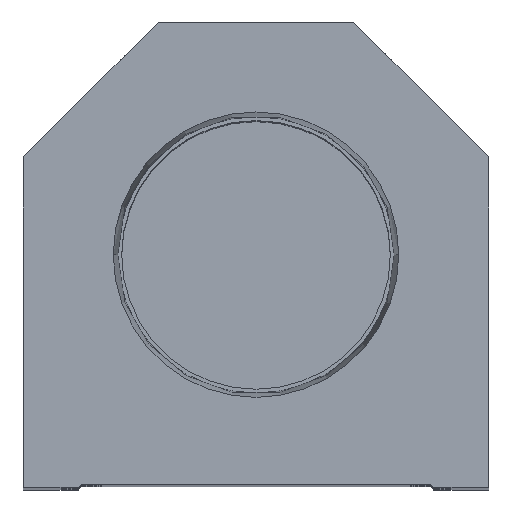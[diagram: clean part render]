
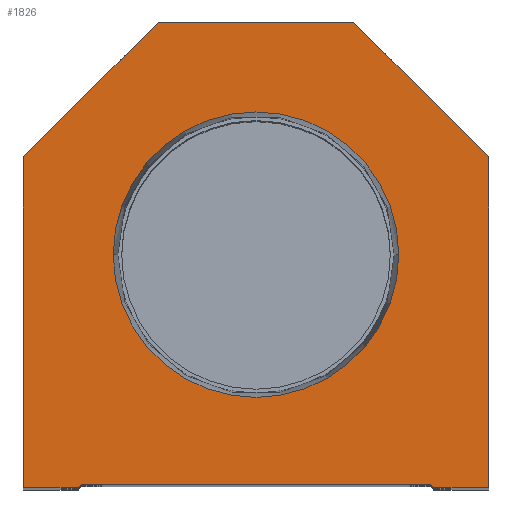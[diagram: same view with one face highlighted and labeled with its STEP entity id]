
A CAD part, top view. The second image highlights one B-rep face of the part: STEP entity #1826.
In plain terms, the highlighted planar face has unit normal (0, 0, 1).
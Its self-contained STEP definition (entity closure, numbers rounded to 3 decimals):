
#214 = EDGE_CURVE ( 'NONE', #13820, #8233, #1455, .T. ) ;
#485 = ORIENTED_EDGE ( 'NONE', *, *, #16792, .T. ) ;
#726 = LINE ( 'NONE', #4638, #4247 ) ;
#743 = CARTESIAN_POINT ( 'NONE',  ( -23.374, 38.1, 0. ) ) ;
#916 = VERTEX_POINT ( 'NONE', #8807 ) ;
#1455 = LINE ( 'NONE', #19187, #17532 ) ;
#1826 = ADVANCED_FACE ( 'NONE', ( #20359, #4279 ), #20237, .T. ) ;
#3287 = CARTESIAN_POINT ( 'NONE',  ( 38.1, 54.1, 0. ) ) ;
#3721 = EDGE_CURVE ( 'NONE', #5514, #17840, #4993, .T. ) ;
#3907 = CARTESIAN_POINT ( 'NONE',  ( 0., 38.1, 0. ) ) ;
#4038 = VERTEX_POINT ( 'NONE', #4616 ) ;
#4139 = DIRECTION ( 'NONE',  ( -1., 0., 0. ) ) ;
#4156 = ORIENTED_EDGE ( 'NONE', *, *, #6049, .T. ) ;
#4158 = CARTESIAN_POINT ( 'NONE',  ( 0., 0., 0. ) ) ;
#4222 = LINE ( 'NONE', #18510, #7444 ) ;
#4247 = VECTOR ( 'NONE', #16968, 1000. ) ;
#4279 = FACE_OUTER_BOUND ( 'NONE', #23005, .T. ) ;
#4537 = EDGE_CURVE ( 'NONE', #916, #13169, #4222, .T. ) ;
#4616 = CARTESIAN_POINT ( 'NONE',  ( 16., 76.2, 0. ) ) ;
#4638 = CARTESIAN_POINT ( 'NONE',  ( -14.55, 14.55, 0. ) ) ;
#4641 = VECTOR ( 'NONE', #19995, 1000. ) ;
#4993 = LINE ( 'NONE', #13715, #8162 ) ;
#5039 = CIRCLE ( 'NONE', #15540, 23.374 ) ;
#5082 = CARTESIAN_POINT ( 'NONE',  ( -38.1, 0., 0. ) ) ;
#5417 = VECTOR ( 'NONE', #16198, 1000. ) ;
#5514 = VERTEX_POINT ( 'NONE', #9874 ) ;
#5631 = DIRECTION ( 'NONE',  ( 1., 0., 0. ) ) ;
#5980 = LINE ( 'NONE', #9644, #6438 ) ;
#6049 = EDGE_CURVE ( 'NONE', #8233, #19801, #11911, .T. ) ;
#6438 = VECTOR ( 'NONE', #5631, 1000. ) ;
#6572 = ORIENTED_EDGE ( 'NONE', *, *, #7681, .T. ) ;
#6749 = DIRECTION ( 'NONE',  ( -0.707, -0.707, 0. ) ) ;
#7444 = VECTOR ( 'NONE', #9041, 1000. ) ;
#7562 = DIRECTION ( 'NONE',  ( 1., 0., 0. ) ) ;
#7681 = EDGE_CURVE ( 'NONE', #13179, #5514, #5980, .T. ) ;
#7957 = DIRECTION ( 'NONE',  ( 0.707, -0.707, 0. ) ) ;
#8162 = VECTOR ( 'NONE', #15467, 1000. ) ;
#8233 = VERTEX_POINT ( 'NONE', #16387 ) ;
#8807 = CARTESIAN_POINT ( 'NONE',  ( -28.6, 0.5, 0. ) ) ;
#8914 = EDGE_CURVE ( 'NONE', #13277, #916, #726, .T. ) ;
#9041 = DIRECTION ( 'NONE',  ( 1., 0., 0. ) ) ;
#9327 = ORIENTED_EDGE ( 'NONE', *, *, #10738, .F. ) ;
#9539 = EDGE_CURVE ( 'NONE', #19801, #13277, #14389, .T. ) ;
#9644 = CARTESIAN_POINT ( 'NONE',  ( 28.6, 0., 0. ) ) ;
#9874 = CARTESIAN_POINT ( 'NONE',  ( 38.1, 0., 0. ) ) ;
#10094 = CARTESIAN_POINT ( 'NONE',  ( 29.1, 0., 0. ) ) ;
#10709 = EDGE_CURVE ( 'NONE', #4038, #13820, #18553, .T. ) ;
#10738 = EDGE_CURVE ( 'NONE', #17550, #16775, #5039, .T. ) ;
#11106 = DIRECTION ( 'NONE',  ( 0., 0., 1. ) ) ;
#11223 = EDGE_CURVE ( 'NONE', #17840, #4038, #12586, .T. ) ;
#11235 = CARTESIAN_POINT ( 'NONE',  ( -29.1, 0., 0. ) ) ;
#11338 = DIRECTION ( 'NONE',  ( 1., 0., 0. ) ) ;
#11431 = AXIS2_PLACEMENT_3D ( 'NONE', #15443, #20827, #11684 ) ;
#11461 = DIRECTION ( 'NONE',  ( 0., 0., 1. ) ) ;
#11563 = CARTESIAN_POINT ( 'NONE',  ( 16., 76.2, 0. ) ) ;
#11606 = ORIENTED_EDGE ( 'NONE', *, *, #8914, .T. ) ;
#11684 = DIRECTION ( 'NONE',  ( 1., 0., 0. ) ) ;
#11763 = ORIENTED_EDGE ( 'NONE', *, *, #10709, .T. ) ;
#11911 = LINE ( 'NONE', #5082, #21760 ) ;
#12203 = CARTESIAN_POINT ( 'NONE',  ( 23.374, 38.1, 0. ) ) ;
#12586 = LINE ( 'NONE', #3287, #5417 ) ;
#13157 = CARTESIAN_POINT ( 'NONE',  ( -16., 76.2, 0. ) ) ;
#13169 = VERTEX_POINT ( 'NONE', #20871 ) ;
#13179 = VERTEX_POINT ( 'NONE', #10094 ) ;
#13259 = LINE ( 'NONE', #22879, #17093 ) ;
#13277 = VERTEX_POINT ( 'NONE', #11235 ) ;
#13715 = CARTESIAN_POINT ( 'NONE',  ( 38.1, 0., 0. ) ) ;
#13820 = VERTEX_POINT ( 'NONE', #13157 ) ;
#13883 = CARTESIAN_POINT ( 'NONE',  ( 38.1, 54.1, 0. ) ) ;
#14144 = DIRECTION ( 'NONE',  ( 0., -1., 0. ) ) ;
#14205 = EDGE_LOOP ( 'NONE', ( #9327, #20943 ) ) ;
#14389 = LINE ( 'NONE', #15044, #4641 ) ;
#15044 = CARTESIAN_POINT ( 'NONE',  ( -28.6, 0., 0. ) ) ;
#15443 = CARTESIAN_POINT ( 'NONE',  ( 0., 38.1, 0. ) ) ;
#15467 = DIRECTION ( 'NONE',  ( 0., 1., 0. ) ) ;
#15540 = AXIS2_PLACEMENT_3D ( 'NONE', #3907, #11106, #7562 ) ;
#15679 = ORIENTED_EDGE ( 'NONE', *, *, #3721, .T. ) ;
#16042 = ORIENTED_EDGE ( 'NONE', *, *, #9539, .T. ) ;
#16134 = CARTESIAN_POINT ( 'NONE',  ( -38.1, 0., 0. ) ) ;
#16198 = DIRECTION ( 'NONE',  ( -0.707, 0.707, 0. ) ) ;
#16387 = CARTESIAN_POINT ( 'NONE',  ( -38.1, 54.1, 0. ) ) ;
#16775 = VERTEX_POINT ( 'NONE', #743 ) ;
#16792 = EDGE_CURVE ( 'NONE', #13169, #13179, #13259, .T. ) ;
#16968 = DIRECTION ( 'NONE',  ( 0.707, 0.707, 0. ) ) ;
#17093 = VECTOR ( 'NONE', #7957, 1000. ) ;
#17532 = VECTOR ( 'NONE', #6749, 1000. ) ;
#17550 = VERTEX_POINT ( 'NONE', #12203 ) ;
#17700 = ORIENTED_EDGE ( 'NONE', *, *, #214, .T. ) ;
#17840 = VERTEX_POINT ( 'NONE', #13883 ) ;
#18252 = ORIENTED_EDGE ( 'NONE', *, *, #11223, .T. ) ;
#18286 = ORIENTED_EDGE ( 'NONE', *, *, #4537, .T. ) ;
#18510 = CARTESIAN_POINT ( 'NONE',  ( -28.6, 0.5, 0. ) ) ;
#18553 = LINE ( 'NONE', #11563, #21549 ) ;
#19187 = CARTESIAN_POINT ( 'NONE',  ( -38.1, 54.1, 0. ) ) ;
#19394 = AXIS2_PLACEMENT_3D ( 'NONE', #4158, #11461, #11338 ) ;
#19801 = VERTEX_POINT ( 'NONE', #16134 ) ;
#19995 = DIRECTION ( 'NONE',  ( 1., 0., 0. ) ) ;
#20237 = PLANE ( 'NONE',  #19394 ) ;
#20359 = FACE_BOUND ( 'NONE', #14205, .T. ) ;
#20827 = DIRECTION ( 'NONE',  ( 0., 0., 1. ) ) ;
#20833 = CIRCLE ( 'NONE', #11431, 23.374 ) ;
#20871 = CARTESIAN_POINT ( 'NONE',  ( 28.6, 0.5, 0. ) ) ;
#20943 = ORIENTED_EDGE ( 'NONE', *, *, #22503, .F. ) ;
#21549 = VECTOR ( 'NONE', #4139, 1000. ) ;
#21760 = VECTOR ( 'NONE', #14144, 1000. ) ;
#22503 = EDGE_CURVE ( 'NONE', #16775, #17550, #20833, .T. ) ;
#22879 = CARTESIAN_POINT ( 'NONE',  ( 14.55, 14.55, 0. ) ) ;
#23005 = EDGE_LOOP ( 'NONE', ( #16042, #11606, #18286, #485, #6572, #15679, #18252, #11763, #17700, #4156 ) ) ;
